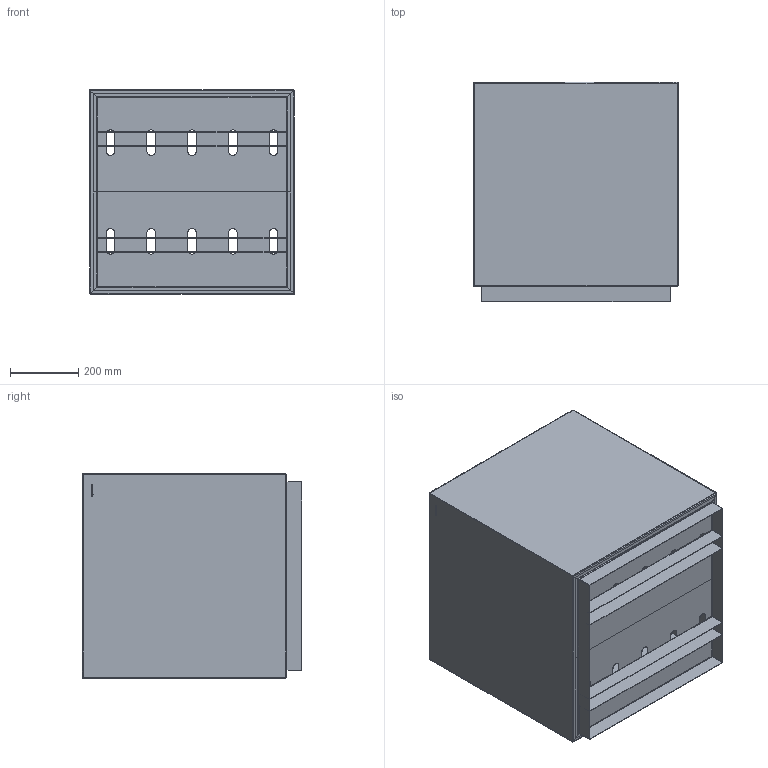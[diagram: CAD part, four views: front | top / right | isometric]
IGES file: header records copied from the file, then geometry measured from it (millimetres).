
Start section: SolidWorks IGES file using analytic representation for surfaces
Global section: file name: C:\VaultDeCastelli\Progetti\DC\PESO LEGGERO PRODOTTI\Ale\DeCastelli-3D-Cube 64.igs; native system: SolidWorks 2022; preprocessor: SolidWorks 2022; author: AlessandroP; date: 240802.102723; units: millimetre
Bounding box: 600 x 645 x 600 mm (x, y, z)
Surface area: 3718059.1 mm2 (no closed solid volume)
Topology: 0 solids, 0 shells, 131 faces, 1104 edges, 1104 vertices
Faces by surface type: bspline 94, revolution 37
